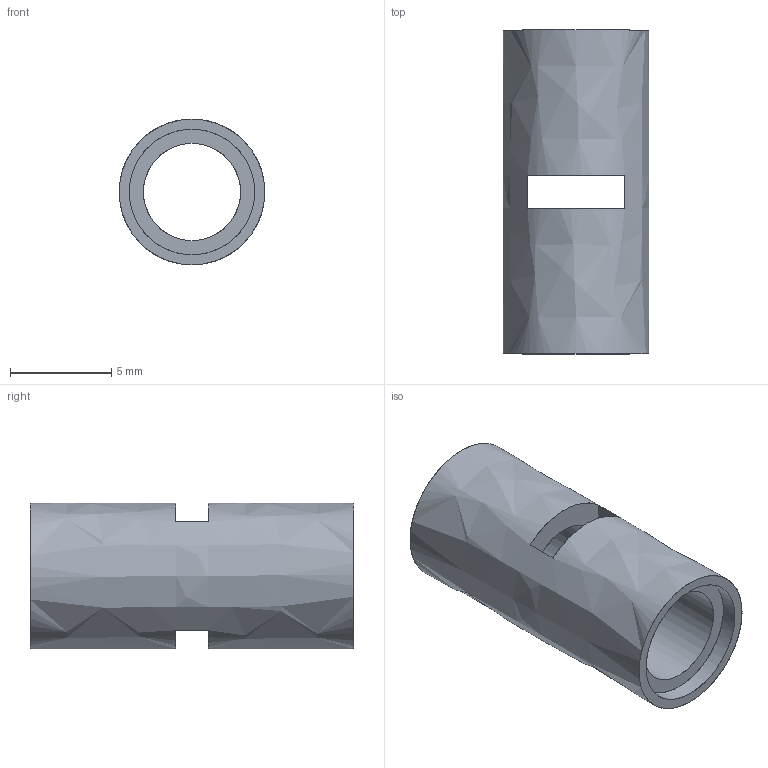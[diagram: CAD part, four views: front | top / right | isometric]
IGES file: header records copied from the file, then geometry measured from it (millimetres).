
Start section: C
Global section: file name: Ye_4526983_MCM.iges; native system: By Siemens PLM Incorporated; preprocessor: XPlus GENERIC/IGES 26.1.183; author: Author; organization: Title; date: 20250722.000949; units: millimetre
Bounding box: 7.2 x 16 x 7.2 mm (x, y, z)
Surface area: 668.7 mm2 (no closed solid volume)
Topology: 0 solids, 0 shells, 17 faces, 104 edges, 104 vertices
Faces by surface type: bspline 17
